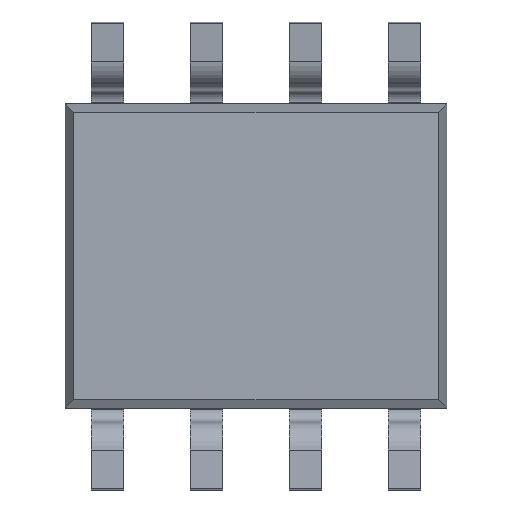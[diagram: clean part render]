
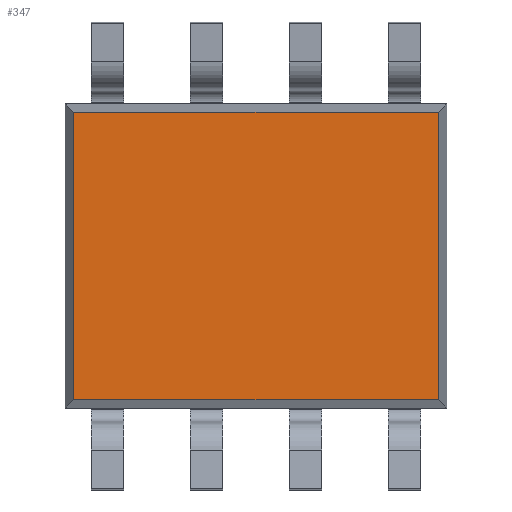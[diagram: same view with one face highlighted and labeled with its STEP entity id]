
A CAD part, front view. The second image highlights one B-rep face of the part: STEP entity #347.
In plain terms, the highlighted planar face has unit normal (0, -1, 0).
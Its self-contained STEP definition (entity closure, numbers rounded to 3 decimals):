
#98=DIRECTION('',(0.,0.,1.));
#99=VECTOR('',#98,3.68);
#100=CARTESIAN_POINT('',(2.335,-0.845,-1.84));
#101=LINE('',#100,#99);
#102=DIRECTION('',(1.,0.,0.));
#103=VECTOR('',#102,4.67);
#104=CARTESIAN_POINT('',(-2.335,-0.845,-1.84));
#105=LINE('',#104,#103);
#106=DIRECTION('',(0.,0.,-1.));
#107=VECTOR('',#106,3.68);
#108=CARTESIAN_POINT('',(-2.335,-0.845,1.84));
#109=LINE('',#108,#107);
#110=DIRECTION('',(-1.,0.,0.));
#111=VECTOR('',#110,4.67);
#112=CARTESIAN_POINT('',(2.335,-0.845,1.84));
#113=LINE('',#112,#111);
#162=CARTESIAN_POINT('',(2.335,-0.845,-1.84));
#163=CARTESIAN_POINT('',(2.335,-0.845,1.84));
#164=VERTEX_POINT('',#162);
#165=VERTEX_POINT('',#163);
#168=CARTESIAN_POINT('',(-2.335,-0.845,-1.84));
#169=VERTEX_POINT('',#168);
#172=CARTESIAN_POINT('',(-2.335,-0.845,1.84));
#173=VERTEX_POINT('',#172);
#335=CARTESIAN_POINT('',(0.,-0.845,0.));
#336=DIRECTION('',(0.,-1.,0.));
#337=DIRECTION('',(1.,0.,0.));
#338=AXIS2_PLACEMENT_3D('',#335,#336,#337);
#339=PLANE('',#338);
#341=ORIENTED_EDGE('',*,*,#340,.F.);
#342=ORIENTED_EDGE('',*,*,#243,.F.);
#343=ORIENTED_EDGE('',*,*,#259,.F.);
#344=ORIENTED_EDGE('',*,*,#326,.F.);
#345=EDGE_LOOP('',(#341,#342,#343,#344));
#346=FACE_OUTER_BOUND('',#345,.F.);
#347=ADVANCED_FACE('',(#346),#339,.T.);
#243=EDGE_CURVE('',#169,#164,#105,.T.);
#259=EDGE_CURVE('',#173,#169,#109,.T.);
#326=EDGE_CURVE('',#165,#173,#113,.T.);
#340=EDGE_CURVE('',#164,#165,#101,.T.);
